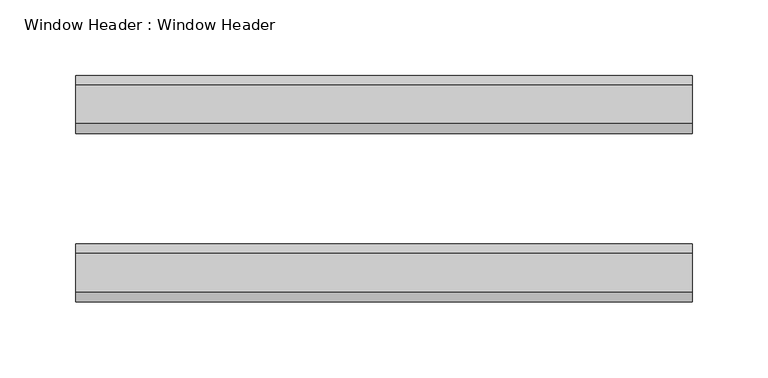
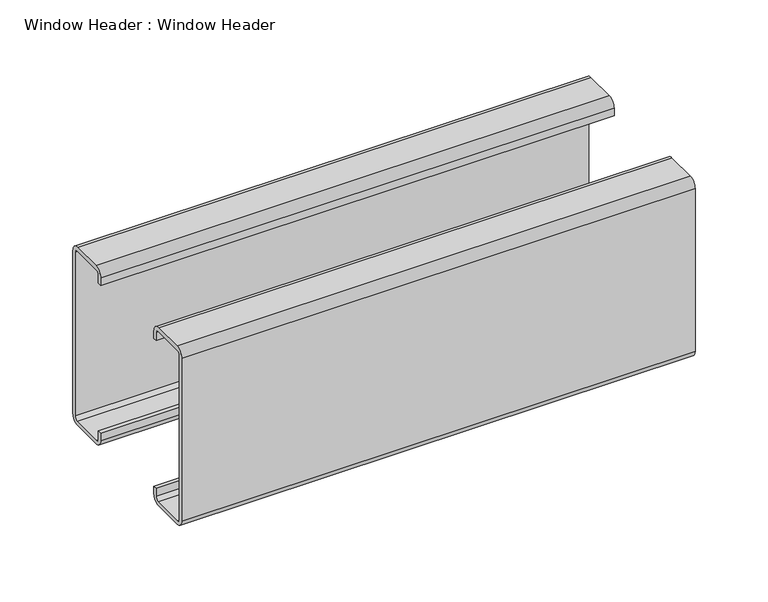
"""IFC4 building model written with IfcOpenShell, lengths in millimetres: proxy geometry, Window Header : Window Header."""

from ifc_helpers import new_model, si_unit, point, frame, frame_2d, origin, place, context, project, spatial, polyline, circle_curve, trimmed, segment, composite_curve, outline, extrude, source, transform, mapped, element, save


def window_header_window_header_abd4ef46(model_context):
    return source(origin(), model_context, "Body", "SweptSolid", [
        extrude(outline(composite_curve([segment(trimmed(circle_curve(frame_2d((794.3191297, 449.2625)), 3.2023936), [point((797.4941297, 449.6804713))], [point((794.7371009, 452.4375))], True, "CARTESIAN"), True, "CONTINUOUS"), segment(polyline([(794.7371009, 452.4375), (768.5011584, 452.4375)]), True, "CONTINUOUS"), segment(trimmed(circle_curve(frame_2d((768.9191297, 449.2625)), 3.2023936), [point((768.5011584, 452.4375))], [point((765.7441297, 449.6804713))], True, "CARTESIAN"), True, "CONTINUOUS"), segment(polyline([(765.7441297, 449.6804713), (765.7441297, 442.9125), (762.5691297, 442.9125), (762.5691297, 449.2625)]), True, "CONTINUOUS"), segment(trimmed(circle_curve(frame_2d((768.9191297, 449.2625)), 6.35), [point((762.5691297, 449.2625))], [point((768.9191297, 455.6125))], False, "CARTESIAN"), True, "CONTINUOUS"), segment(polyline([(768.9191297, 455.6125), (794.3191297, 455.6125)]), True, "CONTINUOUS"), segment(trimmed(circle_curve(frame_2d((794.3191297, 449.2625)), 6.35), [point((794.3191297, 455.6125))], [point((800.6691297, 449.2625))], False, "CARTESIAN"), True, "CONTINUOUS"), segment(polyline([(800.6691297, 449.2625), (800.6691297, 312.7375)]), True, "CONTINUOUS"), segment(trimmed(circle_curve(frame_2d((794.3191297, 312.7375)), 6.35), [point((800.6691297, 312.7375))], [point((794.3191297, 306.3875))], False, "CARTESIAN"), True, "CONTINUOUS"), segment(polyline([(794.3191297, 306.3875), (768.9191297, 306.3875)]), True, "CONTINUOUS"), segment(trimmed(circle_curve(frame_2d((768.9191297, 312.7375)), 6.35), [point((768.9191297, 306.3875))], [point((762.5691297, 312.7375))], False, "CARTESIAN"), True, "CONTINUOUS"), segment(polyline([(762.5691297, 312.7375), (762.5691297, 319.0875), (765.7441297, 319.0875), (765.7441297, 312.3195287)]), True, "CONTINUOUS"), segment(trimmed(circle_curve(frame_2d((768.9191297, 312.7375)), 3.2023936), [point((765.7441297, 312.3195287))], [point((768.5011584, 309.5625))], True, "CARTESIAN"), True, "CONTINUOUS"), segment(polyline([(768.5011584, 309.5625), (794.7371009, 309.5625)]), True, "CONTINUOUS"), segment(trimmed(circle_curve(frame_2d((794.3191297, 312.7375)), 3.2023936), [point((794.7371009, 309.5625))], [point((797.4941297, 312.3195287))], True, "CARTESIAN"), True, "CONTINUOUS"), segment(polyline([(797.4941297, 312.3195287), (797.4941297, 449.6804713)]), True, "CONTINUOUS")], self_intersect=False)), frame((26489.1726773, 0.0, 0.0), z_axis=(1.0, 0.0, 0.0), x_axis=(0.0, 1.0, 0.0)), (0.0, 0.0, 1.0), 406.4),
        extrude(outline(composite_curve([segment(polyline([(654.619601, 449.6804713), (654.619601, 312.3195287)]), True, "CONTINUOUS"), segment(trimmed(circle_curve(frame_2d((657.794601, 312.7375)), 3.2023936), [point((654.619601, 312.3195287))], [point((657.3766297, 309.5625))], True, "CARTESIAN"), True, "CONTINUOUS"), segment(polyline([(657.3766297, 309.5625), (683.6125723, 309.5625)]), True, "CONTINUOUS"), segment(trimmed(circle_curve(frame_2d((683.194601, 312.7375)), 3.2023936), [point((683.6125723, 309.5625))], [point((686.369601, 312.3195287))], True, "CARTESIAN"), True, "CONTINUOUS"), segment(polyline([(686.369601, 312.3195287), (686.369601, 319.0875), (689.544601, 319.0875), (689.544601, 312.7375)]), True, "CONTINUOUS"), segment(trimmed(circle_curve(frame_2d((683.194601, 312.7375)), 6.35), [point((689.544601, 312.7375))], [point((683.194601, 306.3875))], False, "CARTESIAN"), True, "CONTINUOUS"), segment(polyline([(683.194601, 306.3875), (657.794601, 306.3875)]), True, "CONTINUOUS"), segment(trimmed(circle_curve(frame_2d((657.794601, 312.7375)), 6.35), [point((657.794601, 306.3875))], [point((651.444601, 312.7375))], False, "CARTESIAN"), True, "CONTINUOUS"), segment(polyline([(651.444601, 312.7375), (651.444601, 449.2625)]), True, "CONTINUOUS"), segment(trimmed(circle_curve(frame_2d((657.794601, 449.2625)), 6.35), [point((651.444601, 449.2625))], [point((657.794601, 455.6125))], False, "CARTESIAN"), True, "CONTINUOUS"), segment(polyline([(657.794601, 455.6125), (683.194601, 455.6125)]), True, "CONTINUOUS"), segment(trimmed(circle_curve(frame_2d((683.194601, 449.2625)), 6.35), [point((683.194601, 455.6125))], [point((689.544601, 449.2625))], False, "CARTESIAN"), True, "CONTINUOUS"), segment(polyline([(689.544601, 449.2625), (689.544601, 442.9125), (686.369601, 442.9125), (686.369601, 449.6804713)]), True, "CONTINUOUS"), segment(trimmed(circle_curve(frame_2d((683.194601, 449.2625)), 3.2023936), [point((686.369601, 449.6804713))], [point((683.6125723, 452.4375))], True, "CARTESIAN"), True, "CONTINUOUS"), segment(polyline([(683.6125723, 452.4375), (657.3766297, 452.4375)]), True, "CONTINUOUS"), segment(trimmed(circle_curve(frame_2d((657.794601, 449.2625)), 3.2023936), [point((657.3766297, 452.4375))], [point((654.619601, 449.6804713))], True, "CARTESIAN"), True, "CONTINUOUS")], self_intersect=False)), frame((26489.1726773, 0.0, 0.0), z_axis=(1.0, 0.0, 0.0), x_axis=(0.0, 1.0, 0.0)), (0.0, 0.0, 1.0), 406.4),
    ])


if __name__ == "__main__":
    model = new_model("IFC4")
    model_context = context("Model", 3, world=origin())
    ifc_project = project(units=[si_unit("LENGTHUNIT", "METRE", prefix="MILLI")], contexts=[model_context])
    site = spatial("IfcSite", under=ifc_project)
    building = spatial("IfcBuilding", under=site)
    placement = place(None, origin())
    window_header_window_header_shape = window_header_window_header_abd4ef46(model_context)
    element("IfcBuildingElementProxy", 1, Name="Window Header : Window Header", ObjectType="Window Header : Window Header", at=placement, inside=building, context=model_context, shape_type="MappedRepresentation", body=[
        mapped(window_header_window_header_shape, transform((0.0, 0.0, 0.0), x_axis=(1.0, 0.0, 0.0), y_axis=(0.0, 1.0, 0.0), z_axis=(0.0, 0.0, 1.0))),
    ])
    save(model, "model.ifc")
